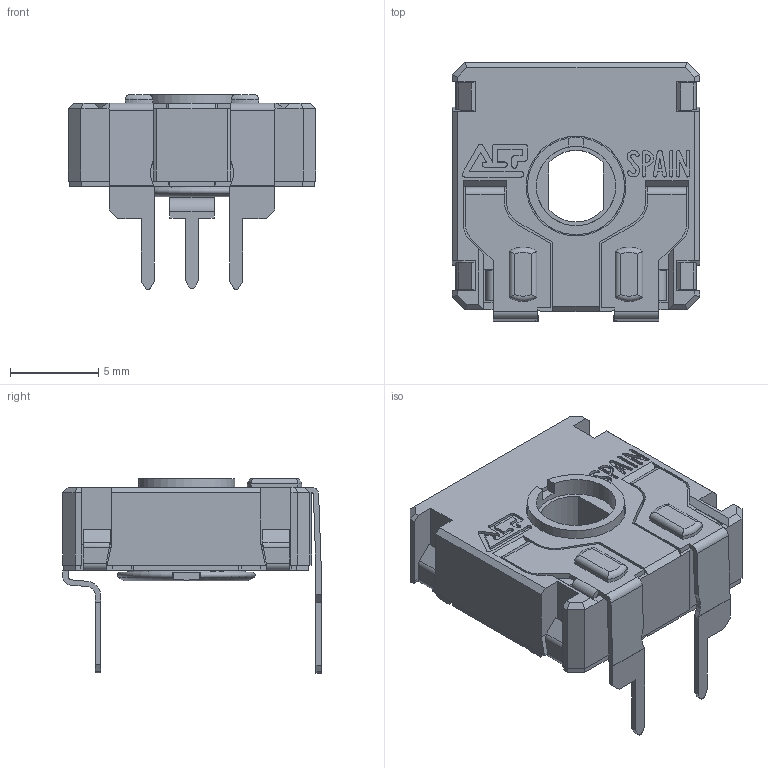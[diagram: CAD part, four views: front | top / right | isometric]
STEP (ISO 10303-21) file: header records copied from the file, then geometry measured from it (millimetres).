
FILE_DESCRIPTION(/* description */ (''),/* implementation_level */ '2;1');
FILE_NAME(/* name */ 'C:\Users\CEM\Desktop\ENVIAR\TRANSICION 3D CATALOGOS\CS14ZV12,5x5.stp',/* time_stamp */ '2025-10-24T17:51:57+02:00',/* author */ ('CEM'),/* organization */ (''),/* preprocessor_version */ 'ST-DEVELOPER v17',/* originating_system */ 'Autodesk Inventor 2018',/* authorisation */ '');
FILE_SCHEMA (('AUTOMOTIVE_DESIGN { 1 0 10303 214 3 1 1 }'));
Length unit declared in the file: millimetre
Products named in the file (1): CS14ZV12,5x5
Bounding box: 14 x 14.65 x 11.04 mm (x, y, z)
Volume: 552 mm3; surface area: 1613.6 mm2
Topology: 1 solids, 3 shells, 722 faces, 2030 edges, 1309 vertices
Faces by surface type: plane 539, cylinder 147, cone 15, bspline 12, torus 9
Full cylindrical faces by diameter (mm): 4.5 x1, 5.5 x1, 5.65 x1, 6.87 x1
Entity records: 24164 total; most frequent: CARTESIAN_POINT 4531, ORIENTED_EDGE 4060, DIRECTION 3782, EDGE_CURVE 2030, LINE 1582, VECTOR 1582, VERTEX_POINT 1309, AXIS2_PLACEMENT_3D 1100
